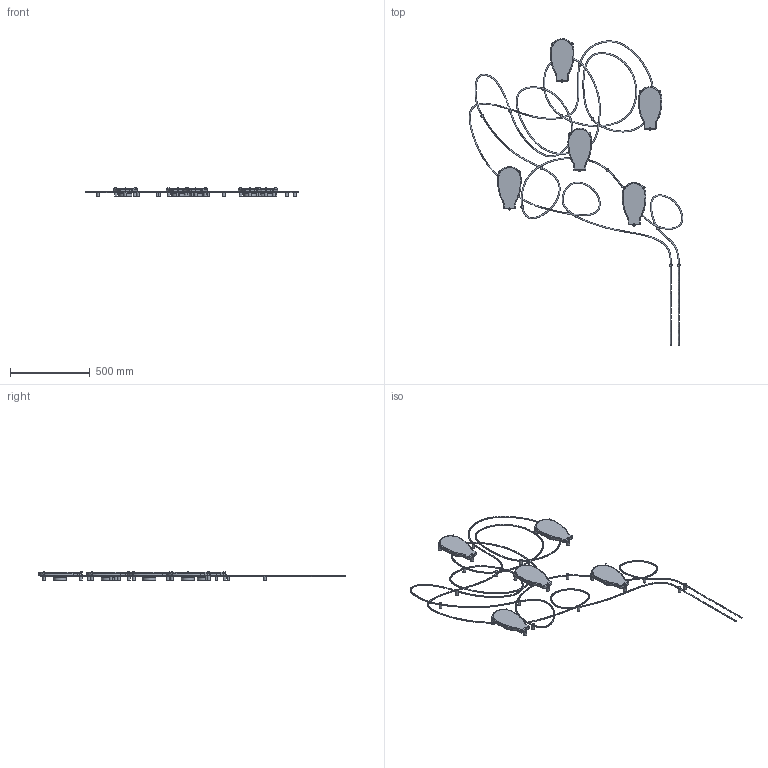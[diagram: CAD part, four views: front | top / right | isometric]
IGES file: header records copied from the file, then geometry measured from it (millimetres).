
Global section: file name: /Users/carolinacolombo/Desktop/Danese/Sito/3D mancanti/Spettatori/Spettatori.igs; native system: Rhinoceros ( Dec  3 2024 ); preprocessor: Trout Lake IGES 012 Dec  3 2024; date: 260930.093903; units: millimetre
Bounding box: 1335.11 x 1917.5 x 55.75 mm (x, y, z)
Surface area: 776373.8 mm2 (no closed solid volume)
Topology: 0 solids, 0 shells, 624 faces, 3495 edges, 3441 vertices
Faces by surface type: bspline 624
